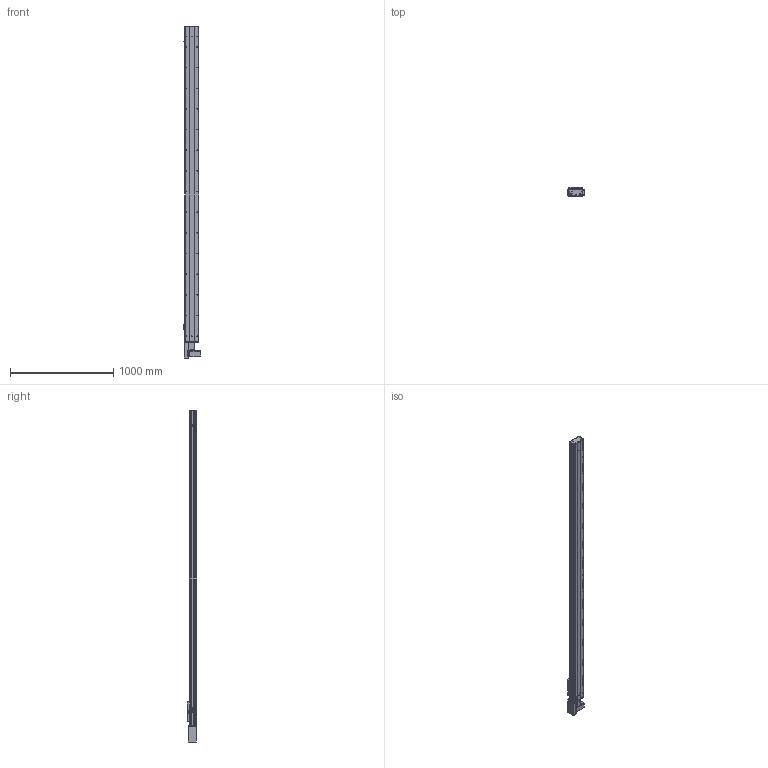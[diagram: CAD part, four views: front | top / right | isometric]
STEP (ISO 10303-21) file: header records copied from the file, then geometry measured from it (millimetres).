
FILE_DESCRIPTION (( 'STEP AP203' ), '1' );
FILE_NAME ('Y135CB-D90-S2750-BR-P400W.STEP', '2020-02-18T03:15:07', ( '微软用户' ), ( '微软中国' ), 'SwSTEP 2.0', 'SolidWorks 2017', '' );
FILE_SCHEMA (( 'CONFIG_CONTROL_DESIGN' ));
Length unit declared in the file: millimetre
Products named in the file (18): Y135C-陔俋离換覜結え-; 0B-源倛裔啣; 5C--俋欶; C-雄赽釱--; 0B-萇儂楊擘啣; Y10B--々湍喘謫眊--666; Y135CB-耜裔; san松下电机400不带刹车----; Y135CB-D90-S2750-BR-P400W; 135CB---遴掛极.-; 5CB --掛极耜裔啣-; 35CB---喘謫眊楊擘啣; C-詩湍揤踡え-陔; Y10B-耜蚾蟀諉啣----; 135CB--詩湍-CE; Y俋欶BR----; Y100-135俋离換覜ん--; 0B-埴倛裔啣
Assembly tree (21 placements, depth 2):
  Y135CB-D90-S2750-BR-P400W
    Y135CB-耜裔
    135CB---遴掛极.-
    35CB---喘謫眊楊擘啣
    Y10B-耜蚾蟀諉啣----
    Y俋欶BR----
    0B-埴倛裔啣
    0B-源倛裔啣
    0B-萇儂楊擘啣
    san松下电机400不带刹车----
    5CB --掛极耜裔啣-  x2
    C-詩湍揤踡え-陔  x2
    135CB--詩湍-CE
    Y100-135俋离換覜ん--  x3
    Y135C-陔俋离換覜結え-
    5C--俋欶
    C-雄赽釱--
    Y10B--々湍喘謫眊--666
Bounding box: 167.5 x 91 x 3214.5 mm (x, y, z)
Volume: 8931840.1 mm3; surface area: 3541765.3 mm2
Topology: 21 solids, 21 shells, 981 faces, 2689 edges, 1782 vertices
Faces by surface type: cylinder 507, plane 458, cone 16
Entity records: 31159 total; most frequent: CARTESIAN_POINT 5208, DIRECTION 5177, ORIENTED_EDGE 4854, EDGE_CURVE 2427, AXIS2_PLACEMENT_3D 1899, VERTEX_POINT 1610, VECTOR 1379, LINE 1379
